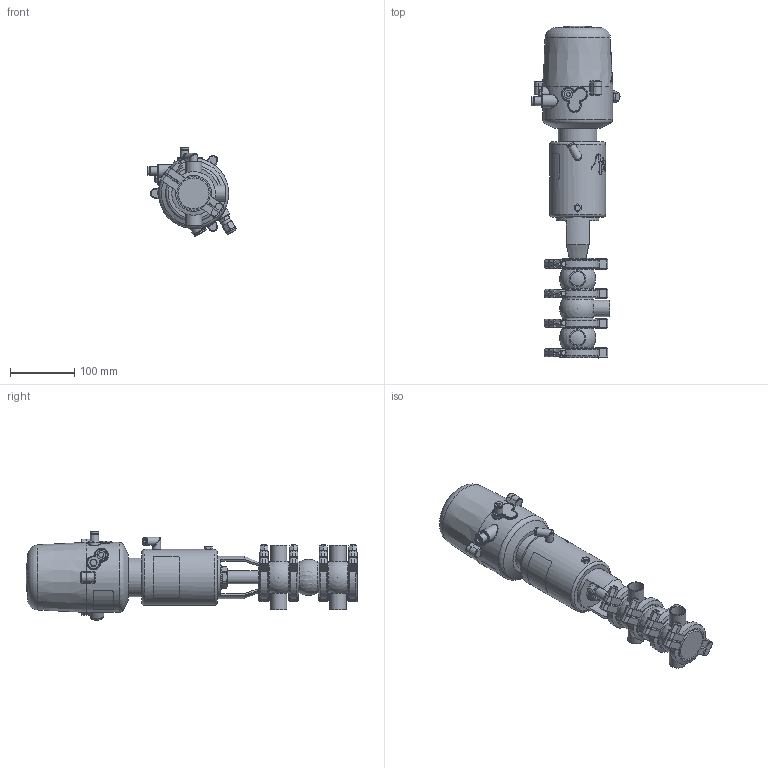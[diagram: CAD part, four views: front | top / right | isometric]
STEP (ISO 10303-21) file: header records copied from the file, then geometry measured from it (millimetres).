
FILE_DESCRIPTION (( 'STEP AP214' ), '1' );
FILE_NAME ('INNOVA L W W OD 1 T1 AS NC & C-TOP S_10.241.16.0064.STEP', '2024-08-06T12:21:49', ( '' ), ( '' ), 'SwSTEP 2.0', 'SolidWorks 2023', '' );
FILE_SCHEMA (( 'AUTOMOTIVE_DESIGN' ));
Length unit declared in the file: millimetre
Products named in the file (9): 10.240.15.0017_Estàndard; 10.240.15.0010_DN 025; 10.240.15.0006_OD 1"; 10.240.15.0014_T1 AS P180; 10.240.15.0007_OD 1"; 10.240.15.0001_DN 025; 10.426.15.0001_C-TOP S - 1 EV; INNOVA L W W OD 1 T1 AS NC & C-TOP S_10.241.16.0064; 10.241.15.0001_DIN 025
Assembly tree (12 placements, depth 2):
  INNOVA L W W OD 1 T1 AS NC & C-TOP S_10.241.16.0064
    10.240.15.0007_OD 1"  x2
    10.240.15.0006_OD 1"
    10.240.15.0010_DN 025
    10.240.15.0014_T1 AS P180
    10.240.15.0017_Estàndard
    10.426.15.0001_C-TOP S - 1 EV
    10.240.15.0001_DN 025  x4
    10.241.15.0001_DIN 025
Bounding box: 136.88 x 516.09 x 137.63 mm (x, y, z)
Volume: 2672664.3 mm3; surface area: 284405.6 mm2
Topology: 13 solids, 13 shells, 1320 faces, 3211 edges, 2129 vertices
Faces by surface type: plane 479, cylinder 408, cone 225, bspline 160, torus 36, sphere 12
Full cylindrical faces by diameter (mm): 0.371 x17, 0.512 x16, 0.658 x16, 0.795 x16, 0.94 x15, 1.098 x15, 1.241 x13, 1.382 x13, 1.523 x11, 1.669 x10, 2.201 x1, 4 x2, 5.5 x2, 6 x2, 6.15 x1, 8 x10, 8.5 x1, 10 x1, 10.5 x1, 11 x2, 12.5 x3, 13 x2, 13.5 x2, 16 x1, 17 x3, 20 x3, 20.5 x1, 22 x2, 22.1 x5, 25.4 x5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
Entity records: 57181 total; most frequent: CARTESIAN_POINT 26704, ORIENTED_EDGE 4544, DIRECTION 3707, EDGE_CURVE 2272, VERTEX_POINT 1617, EDGE_LOOP 1583, AXIS2_PLACEMENT_3D 1521, FACE_OUTER_BOUND 1345
